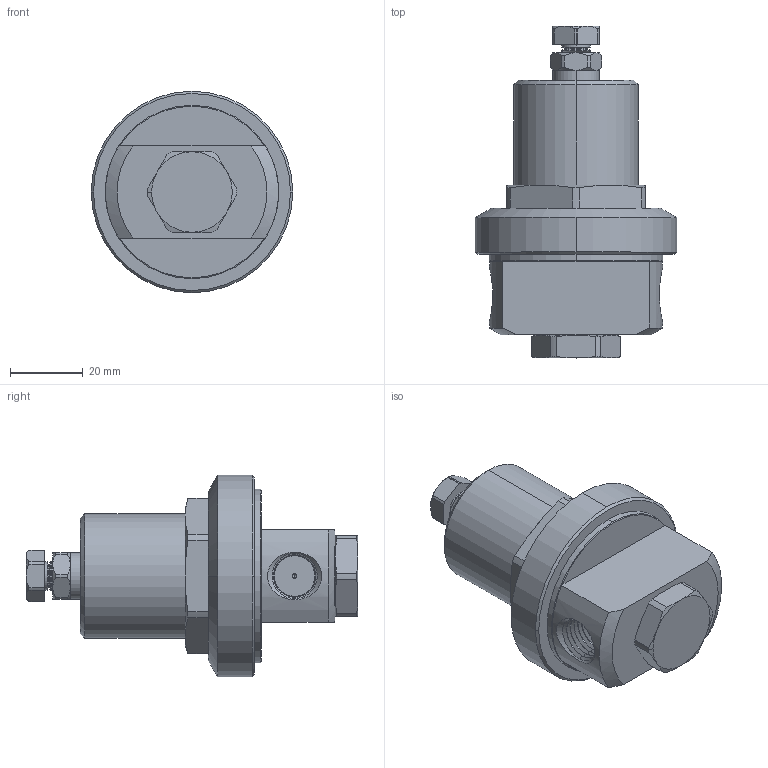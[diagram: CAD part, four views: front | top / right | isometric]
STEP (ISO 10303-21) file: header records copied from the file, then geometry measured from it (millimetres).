
FILE_DESCRIPTION (( 'STEP AP203' ), '1' );
FILE_NAME ('CRM.STEP', '2018-05-25T15:46:51', ( '' ), ( '' ), 'SwSTEP 2.0', 'SolidWorks 2011', '' );
FILE_SCHEMA (( 'CONFIG_CONTROL_DESIGN' ));
Length unit declared in the file: inch
Products named in the file (2): CRM; Part3^21145923_CM_2
Assembly tree (1 placements, depth 2):
  CRM
    Part3^21145923_CM_2
Bounding box: 55.55 x 91.49 x 55.55 mm (x, y, z)
Volume: 92442.7 mm3; surface area: 16466.4 mm2
Topology: 1 solids, 1 shells, 268 faces, 642 edges, 386 vertices
Faces by surface type: cone 159, cylinder 62, plane 47
Entity records: 8213 total; most frequent: CARTESIAN_POINT 1745, DIRECTION 1407, ORIENTED_EDGE 1280, EDGE_CURVE 640, AXIS2_PLACEMENT_3D 580, VERTEX_POINT 386, CIRCLE 308, EDGE_LOOP 280
